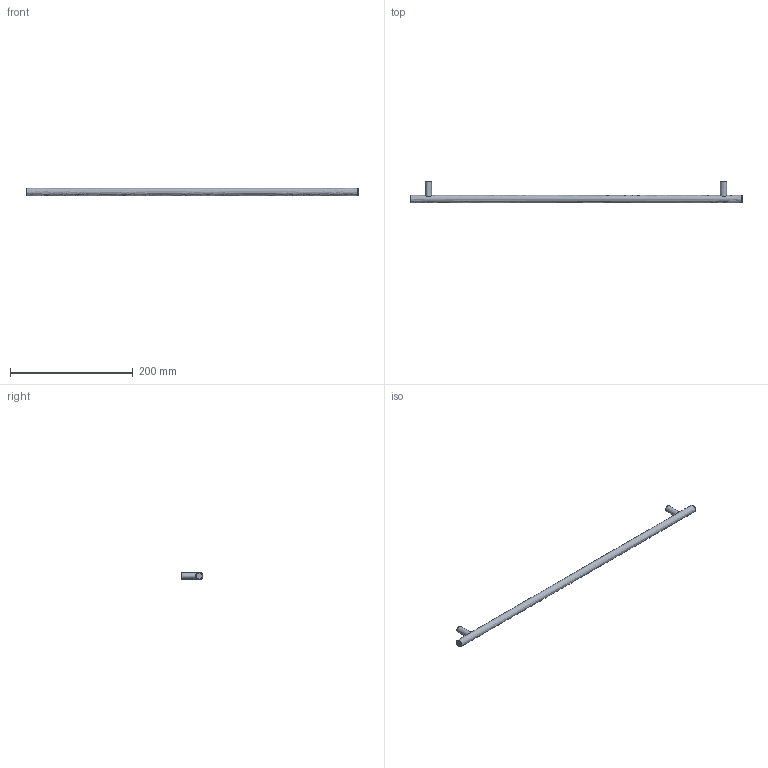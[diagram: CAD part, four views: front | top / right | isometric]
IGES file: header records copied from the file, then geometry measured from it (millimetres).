
Start section: Data from Parasolid IGES Translator 15.0.47, Copyright(c) 2006 Siemens P LM Software. All Rights Reserved.
Global section: file name: 9070753.igs; native system:  By UGS Corp.; preprocessor: XPlus GENERIC/IGES 3.0; author: Noname; organization: Noname; date: 20140123.103927; units: millimetre
Bounding box: 540 x 35 x 12 mm (x, y, z)
Surface area: 22255.3 mm2 (no closed solid volume)
Topology: 0 solids, 0 shells, 13 faces, 42 edges, 34 vertices
Faces by surface type: revolution 7, extrusion 6
